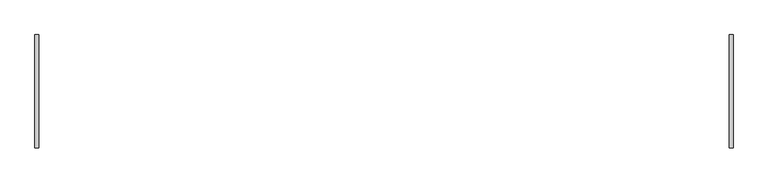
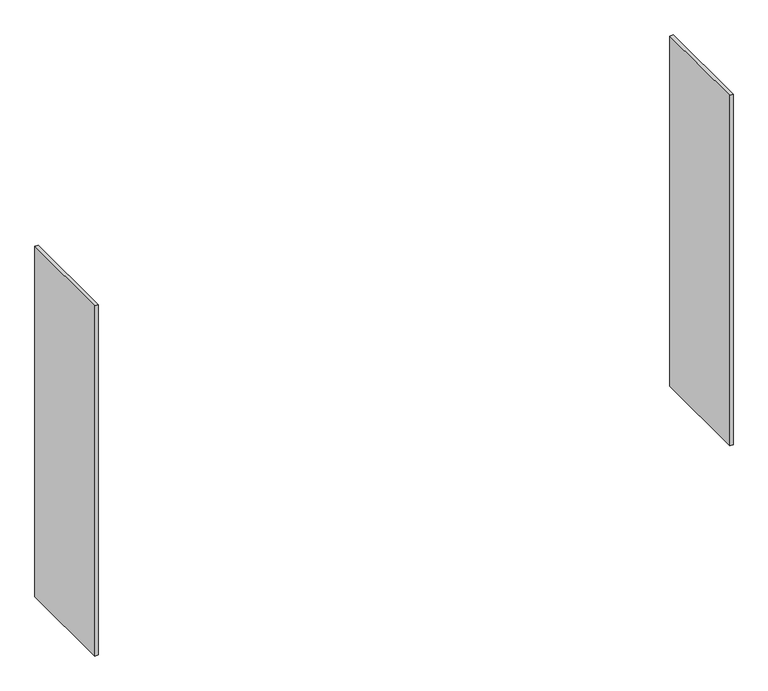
"""IFC4 building model written with IfcOpenShell, lengths in millimetres: furniture geometry, Lockers-Bay-Duracube-Player : LBSM-C-1900h x 400d x 600w with 470h Bench."""

import ifcopenshell
import ifcopenshell.guid

model = None  # the IFC model being written
_history = None  # IfcOwnerHistory: only IFC2X3 demands one
_inside = {}  # id of a spatial element -> (the spatial element, [elements in it])
_under = {}  # id of a project, library or spatial element -> (it, [spatial elements below it])
_declared = {}  # id of a project -> (the project, [libraries it declares])
_typed = {}  # id of a type object -> (the type object, [elements of that type])
_made_of = {}  # id of a material, layer set ... -> (it, [elements and type objects made of it])


def new_model(schema):
    """Start an empty IFC model of exactly this schema.

    Asked for "IFC4X3", IfcOpenShell would pick the latest addendum, in which some entities
    have other attributes; the version numbers below select the first issue.
    IFC2X3 requires an IfcOwnerHistory on every rooted entity: one is made here for all.
    """
    global model, _history
    if schema == "IFC4X3":
        model = ifcopenshell.file(schema_version=(4, 3, 0, 0))
    else:
        model = ifcopenshell.file(schema=schema)
    _inside.clear()
    _under.clear()
    _declared.clear()
    _typed.clear()
    _made_of.clear()
    _history = None
    if model.schema == "IFC2X3":
        org = make("IfcOrganization", Name="unknown")
        user = make(
            "IfcPersonAndOrganization",
            ThePerson=make("IfcPerson", FamilyName="unknown"),
            TheOrganization=org,
        )
        app = make(
            "IfcApplication",
            ApplicationDeveloper=org,
            Version="unknown",
            ApplicationFullName="unknown",
            ApplicationIdentifier="unknown",
        )
        _history = make(
            "IfcOwnerHistory",
            OwningUser=user,
            OwningApplication=app,
            ChangeAction="ADDED",
            CreationDate=0,
        )
    return model


def make(cls, **values):
    """One entity of the class cls with the attributes given. An attribute that is None is left unset."""
    return model.create_entity(
        cls, **{name: value for name, value in values.items() if value is not None}
    )


def rooted(cls, **values):
    """An entity with a GlobalId (a new one), such as an element, a storey or a relation."""
    return make(cls, GlobalId=ifcopenshell.guid.new(), OwnerHistory=_history, **values)


def si_unit(unit_type, name, prefix=None):
    """IfcSIUnit, for example si_unit("LENGTHUNIT", "METRE", prefix="MILLI")."""
    return make("IfcSIUnit", UnitType=unit_type, Prefix=prefix, Name=name)


def assignment(units):
    """IfcUnitAssignment: the units of a project."""
    return None if units is None else make("IfcUnitAssignment", Units=units)


def point(xyz):
    """IfcCartesianPoint."""
    return None if xyz is None else make("IfcCartesianPoint", Coordinates=xyz)


def direction(xyz):
    """IfcDirection."""
    return None if xyz is None else make("IfcDirection", DirectionRatios=xyz)


def frame(location, z_axis=None, x_axis=None):
    """IfcAxis2Placement3D, a coordinate frame: its origin and axes. An axis left out is left unset."""
    return make(
        "IfcAxis2Placement3D",
        Location=point(location),
        Axis=direction(z_axis),
        RefDirection=direction(x_axis),
    )


def origin():
    """The frame at (0, 0, 0) with its axes left unset."""
    return frame((0.0, 0.0, 0.0))


def place(relative_to, where):
    """IfcLocalPlacement: puts the frame where relative to a parent placement (None: the world)."""
    return make(
        "IfcLocalPlacement", PlacementRelTo=relative_to, RelativePlacement=where
    )


def context(
    kind, dimensions, precision=None, world=None, true_north=None, identifier=None
):
    """IfcGeometricRepresentationContext, for example the 3D "Model" context."""
    return make(
        "IfcGeometricRepresentationContext",
        ContextIdentifier=identifier,
        ContextType=kind,
        CoordinateSpaceDimension=dimensions,
        Precision=precision,
        WorldCoordinateSystem=world,
        TrueNorth=true_north,
    )


def project(units=None, contexts=None):
    """IfcProject with its units and contexts."""
    return rooted(
        "IfcProject",
        Name="project",
        RepresentationContexts=contexts,
        UnitsInContext=assignment(units),
    )


def spatial(cls, under=None, at=None, **own):
    """A site, building, storey or space (cls), placed at a placement, below another one or the project."""
    s = rooted(cls, ObjectPlacement=at, **own)
    if under is not None:
        _under.setdefault(under.id(), (under, []))[1].append(s)
    return s


def polyline(points):
    """IfcPolyline through the points."""
    return make("IfcPolyline", Points=[point(p) for p in points])


def outline(outer, holes=None, kind="AREA"):
    """IfcArbitraryClosedProfileDef: a profile drawn as a closed curve; with holes, ...WithVoids."""
    if holes is None:
        return make("IfcArbitraryClosedProfileDef", ProfileType=kind, OuterCurve=outer)
    return make(
        "IfcArbitraryProfileDefWithVoids",
        ProfileType=kind,
        OuterCurve=outer,
        InnerCurves=holes,
    )


def extrude(swept, where, along, depth):
    """IfcExtrudedAreaSolid: the profile swept, set in the frame where, extruded along a direction by depth."""
    return make(
        "IfcExtrudedAreaSolid",
        SweptArea=swept,
        Position=where,
        ExtrudedDirection=direction(along),
        Depth=depth,
    )


def shape(context_of_items, identifier, shape_type, items):
    """IfcShapeRepresentation: the items that make up one representation, for example the "Body"."""
    return make(
        "IfcShapeRepresentation",
        ContextOfItems=context_of_items,
        RepresentationIdentifier=identifier,
        RepresentationType=shape_type,
        Items=items,
    )


def source(mapping_origin, context_of_items, identifier, shape_type, items):
    """IfcRepresentationMap: a shape defined once, which mapped items show again and again."""
    return make(
        "IfcRepresentationMap",
        MappingOrigin=mapping_origin,
        MappedRepresentation=shape(context_of_items, identifier, shape_type, items),
    )


def transform(
    local_origin,
    x_axis=None,
    y_axis=None,
    z_axis=None,
    scale=None,
    scale2=None,
    scale3=None,
    uniform=True,
):
    """IfcCartesianTransformationOperator3D, or its non-uniform kind. x_axis, y_axis, z_axis: its Axis1, 2, 3."""
    if uniform:
        return make(
            "IfcCartesianTransformationOperator3D",
            Axis1=direction(x_axis),
            Axis2=direction(y_axis),
            LocalOrigin=point(local_origin),
            Scale=scale,
            Axis3=direction(z_axis),
        )
    return make(
        "IfcCartesianTransformationOperator3DnonUniform",
        Axis1=direction(x_axis),
        Axis2=direction(y_axis),
        LocalOrigin=point(local_origin),
        Scale=scale,
        Axis3=direction(z_axis),
        Scale2=scale2,
        Scale3=scale3,
    )


def mapped(mapping_source, mapping_target):
    """IfcMappedItem: shows the shape of a source again, moved by a transform."""
    return make(
        "IfcMappedItem", MappingSource=mapping_source, MappingTarget=mapping_target
    )


def made_of(thing, what):
    """Note that an element or type object is made of a material, layer set ...; save() writes the relation."""
    if what is not None:
        _made_of.setdefault(what.id(), (what, []))[1].append(thing)
    return thing


def element(
    cls,
    number,
    at=None,
    inside=None,
    cuts=None,
    type_object=None,
    material=None,
    context=None,
    identifier="Body",
    shape_type=None,
    held_by="IfcProductDefinitionShape",
    body=None,
    shapes=None,
    **own,
):
    """One element of the class cls, such as IfcWall. Its Tag is "e" and its number.

    at: its placement. inside: the storey or other place that contains it. cuts: it is an
    opening in that element (IfcRelVoidsElement). A single representation is given by context,
    identifier, shape_type and body (its items); several are given by shapes. held_by: the class
    of the entity that holds the representations. save() writes the other relations.
    """
    e = rooted(cls, Tag="e%d" % number, ObjectPlacement=at, **own)
    if body is not None:
        shapes = [shape(context, identifier, shape_type, body)]
    if shapes is not None:
        e.Representation = make(held_by, Representations=shapes)
    if inside is not None:
        _inside.setdefault(inside.id(), (inside, []))[1].append(e)
    if cuts is not None:
        rooted(
            "IfcRelVoidsElement", RelatingBuildingElement=cuts, RelatedOpeningElement=e
        )
    if type_object is not None:
        _typed.setdefault(type_object.id(), (type_object, []))[1].append(e)
    return made_of(e, material)


def aggregate(whole, parts):
    """IfcRelAggregates: a whole, such as a stair, and the parts it consists of."""
    return rooted("IfcRelAggregates", RelatingObject=whole, RelatedObjects=parts)


def save(model, path):
    """Write the relations noted so far, then the file.

    IfcRelAggregates (storeys below a building ...), IfcRelContainedInSpatialStructure (elements
    in a storey), IfcRelDefinesByType, IfcRelAssociatesMaterial and IfcRelDeclares: one each for
    every whole, place, type object, material and project.
    """
    for whole, parts in _under.values():
        aggregate(whole, parts)
    for where, things in _inside.values():
        rooted(
            "IfcRelContainedInSpatialStructure",
            RelatedElements=things,
            RelatingStructure=where,
        )
    for kind, things in _typed.values():
        rooted("IfcRelDefinesByType", RelatedObjects=things, RelatingType=kind)
    for what, things in _made_of.values():
        rooted("IfcRelAssociatesMaterial", RelatedObjects=things, RelatingMaterial=what)
    for by, libraries in _declared.values():
        rooted("IfcRelDeclares", RelatingContext=by, RelatedDefinitions=libraries)
    model.write(path)


def furniture_41643bc5(model_context):
    return source(origin(), model_context, "Body", "SweptSolid", [
        extrude(outline(polyline([(2452.0, 200.0), (2465.0, 200.0), (2465.0, -200.0), (2452.0, -200.0), (2452.0, 200.0)])), frame((0.0, 0.0, 470.0), z_axis=(0.0, 0.0, 1.0), x_axis=(1.0, 0.0, 0.0)), (0.0, 0.0, 1.0), 1430.0),
        extrude(outline(polyline([(0.0, 200.0), (13.0, 200.0), (13.0, -200.0), (0.0, -200.0), (0.0, 200.0)])), frame((0.0, 0.0, 470.0), z_axis=(0.0, 0.0, 1.0), x_axis=(1.0, 0.0, 0.0)), (0.0, 0.0, 1.0), 1430.0),
    ])


if __name__ == "__main__":
    model = new_model("IFC4")
    model_context = context("Model", 3, world=origin())
    ifc_project = project(units=[si_unit("LENGTHUNIT", "METRE", prefix="MILLI")], contexts=[model_context])
    site = spatial("IfcSite", under=ifc_project)
    building = spatial("IfcBuilding", under=site)
    placement = place(None, origin())
    furniture_shape = furniture_41643bc5(model_context)
    element("IfcFurniture", 1, ObjectType="Lockers-Bay-Duracube-Player : LBSM-C-1900h x 400d x 600w with 470h Bench", at=placement, inside=building, context=model_context, shape_type="MappedRepresentation", body=[
        mapped(furniture_shape, transform((0.0, 0.0, 0.0), x_axis=(1.0, 0.0, 0.0), y_axis=(0.0, 1.0, 0.0), z_axis=(0.0, 0.0, 1.0))),
    ])
    save(model, "model.ifc")
